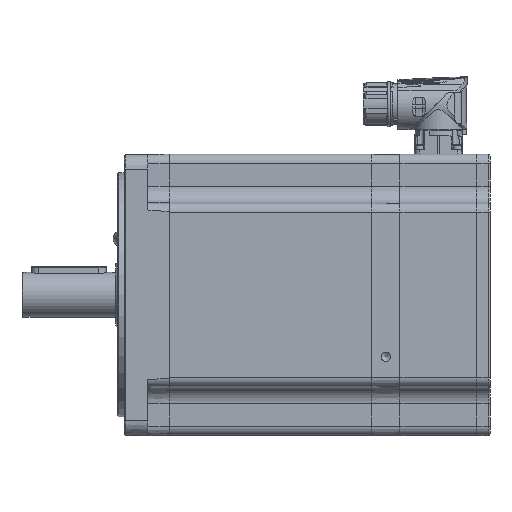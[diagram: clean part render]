
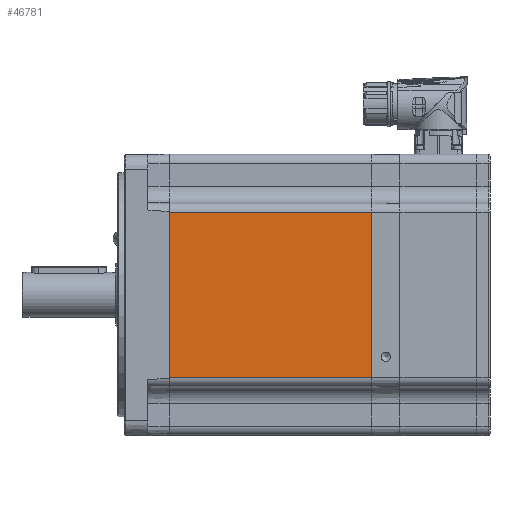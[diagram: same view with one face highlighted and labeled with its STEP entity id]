
A CAD part, left-side view. The second image highlights one B-rep face of the part: STEP entity #46781.
In plain terms, the highlighted planar face has unit normal (-1, 0, 0) as drawn and (0, -1, 0) by its records, which use the part's own axes.
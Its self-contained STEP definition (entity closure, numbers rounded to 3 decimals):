
#1633=LINE('',#68880,#3613);
#1654=LINE('',#68986,#3634);
#1657=LINE('',#69019,#3637);
#1658=LINE('',#69020,#3638);
#3613=VECTOR('',#54804,1000.);
#3634=VECTOR('',#54889,1000.);
#3637=VECTOR('',#54928,1000.);
#3638=VECTOR('',#54929,1000.);
#6449=PLANE('',#49566);
#10551=ORIENTED_EDGE('',*,*,#18194,.F.);
#10552=ORIENTED_EDGE('',*,*,#18259,.T.);
#10553=ORIENTED_EDGE('',*,*,#18246,.T.);
#10554=ORIENTED_EDGE('',*,*,#18260,.T.);
#18194=EDGE_CURVE('',#22414,#22415,#1633,.T.);
#18246=EDGE_CURVE('',#22467,#22466,#1654,.T.);
#18259=EDGE_CURVE('',#22414,#22467,#1657,.T.);
#18260=EDGE_CURVE('',#22466,#22415,#1658,.F.);
#22414=VERTEX_POINT('',#68881);
#22415=VERTEX_POINT('',#68882);
#22466=VERTEX_POINT('',#68985);
#22467=VERTEX_POINT('',#68987);
#27097=EDGE_LOOP('',(#10551,#10552,#10553,#10554));
#29886=FACE_BOUND('',#27097,.T.);
#46781=ADVANCED_FACE('',(#29886),#6449,.T.);
#49566=AXIS2_PLACEMENT_3D('',#69018,#54926,#54927);
#54804=DIRECTION('',(0.,0.,-1.));
#54889=DIRECTION('',(0.,0.,-1.));
#54926=DIRECTION('',(0.,-1.,0.));
#54927=DIRECTION('',(0.,0.,-1.));
#54928=DIRECTION('',(-1.,0.,0.));
#54929=DIRECTION('',(-1.,0.,0.));
#68880=CARTESIAN_POINT('',(-1.,-75.,75.));
#68881=CARTESIAN_POINT('',(-1.,-75.,44.));
#68882=CARTESIAN_POINT('',(-1.,-75.,-44.));
#68985=CARTESIAN_POINT('',(-109.,-75.,-44.));
#68986=CARTESIAN_POINT('',(-109.,-75.,75.));
#68987=CARTESIAN_POINT('',(-109.,-75.,44.));
#69018=CARTESIAN_POINT('',(-300.,-75.,75.));
#69019=CARTESIAN_POINT('',(-300.,-75.,44.));
#69020=CARTESIAN_POINT('',(0.,-75.,-44.));
